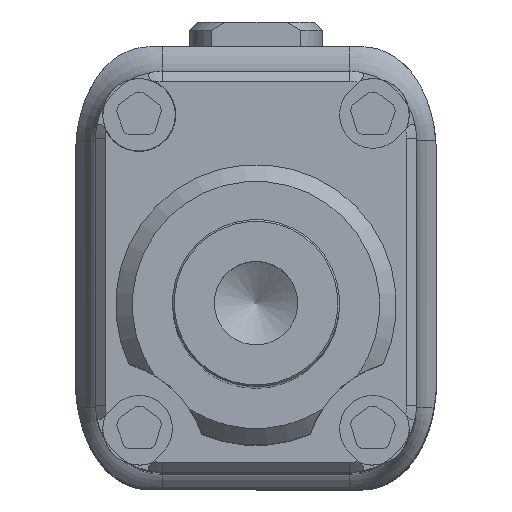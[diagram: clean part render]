
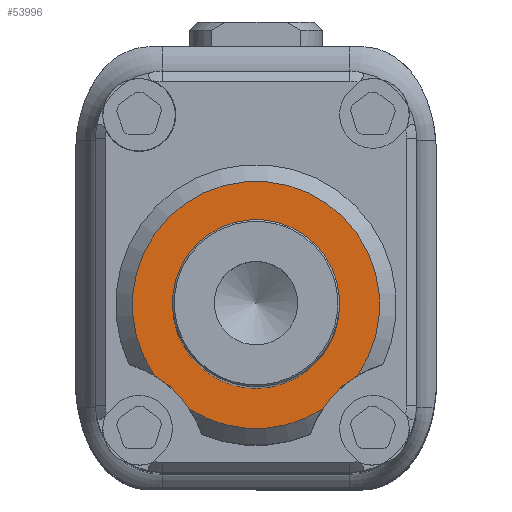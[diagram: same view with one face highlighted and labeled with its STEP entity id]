
A CAD part, top view. The second image highlights one B-rep face of the part: STEP entity #53996.
In plain terms, the highlighted planar face has unit normal (0, 0, 1).
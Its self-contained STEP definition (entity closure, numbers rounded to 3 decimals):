
#2507 = EDGE_CURVE ( 'NONE', #46904, #52491, #33795, .T. ) ;
#2675 = CARTESIAN_POINT ( 'NONE',  ( 0., 0.2, 3.5 ) ) ;
#6387 = CIRCLE ( 'NONE', #46135, 3.2 ) ;
#6552 = CARTESIAN_POINT ( 'NONE',  ( -3.038, -1.912, 3.5 ) ) ;
#6761 = CIRCLE ( 'NONE', #34357, 3.2 ) ;
#8284 = ORIENTED_EDGE ( 'NONE', *, *, #2507, .T. ) ;
#9348 = DIRECTION ( 'NONE',  ( 1., 0., 0. ) ) ;
#9748 = FACE_BOUND ( 'NONE', #37643, .T. ) ;
#11115 = CARTESIAN_POINT ( 'NONE',  ( 2.5, 0.2, 3.5 ) ) ;
#12972 = ORIENTED_EDGE ( 'NONE', *, *, #28618, .T. ) ;
#13907 = FACE_OUTER_BOUND ( 'NONE', #40761, .T. ) ;
#14957 = EDGE_CURVE ( 'NONE', #25230, #46904, #6761, .T. ) ;
#15202 = AXIS2_PLACEMENT_3D ( 'NONE', #23798, #18702, #63068 ) ;
#15803 = CARTESIAN_POINT ( 'NONE',  ( 3.038, -1.912, 3.5 ) ) ;
#18702 = DIRECTION ( 'NONE',  ( 0., 0., 1. ) ) ;
#19535 = DIRECTION ( 'NONE',  ( 0., 0., 1. ) ) ;
#23798 = CARTESIAN_POINT ( 'NONE',  ( 0., 0.2, 3.5 ) ) ;
#24139 = ORIENTED_EDGE ( 'NONE', *, *, #42263, .F. ) ;
#24319 = CARTESIAN_POINT ( 'NONE',  ( 0., 0.2, 3.5 ) ) ;
#25230 = VERTEX_POINT ( 'NONE', #6552 ) ;
#27630 = DIRECTION ( 'NONE',  ( 0., 0., 1. ) ) ;
#28618 = EDGE_CURVE ( 'NONE', #55770, #25230, #41305, .T. ) ;
#31451 = CARTESIAN_POINT ( 'NONE',  ( 0., 0.2, 3.5 ) ) ;
#32358 = CARTESIAN_POINT ( 'NONE',  ( 4.667, -4.667, 3.5 ) ) ;
#33795 = CIRCLE ( 'NONE', #38890, 3.7 ) ;
#34357 = AXIS2_PLACEMENT_3D ( 'NONE', #42127, #61603, #43088 ) ;
#36209 = AXIS2_PLACEMENT_3D ( 'NONE', #2675, #36551, #50896 ) ;
#36520 = DIRECTION ( 'NONE',  ( 1., 0., 0. ) ) ;
#36551 = DIRECTION ( 'NONE',  ( 0., 0., 1. ) ) ;
#37355 = CARTESIAN_POINT ( 'NONE',  ( 1.983, -2.924, 3.5 ) ) ;
#37643 = EDGE_LOOP ( 'NONE', ( #42996 ) ) ;
#38635 = CIRCLE ( 'NONE', #60034, 2.5 ) ;
#38890 = AXIS2_PLACEMENT_3D ( 'NONE', #31451, #27630, #42332 ) ;
#40761 = EDGE_LOOP ( 'NONE', ( #53635, #8284, #24139, #12972 ) ) ;
#41305 = CIRCLE ( 'NONE', #36209, 3.7 ) ;
#42127 = CARTESIAN_POINT ( 'NONE',  ( -4.667, -4.667, 3.5 ) ) ;
#42263 = EDGE_CURVE ( 'NONE', #55770, #52491, #6387, .T. ) ;
#42332 = DIRECTION ( 'NONE',  ( 1., 0., 0. ) ) ;
#42996 = ORIENTED_EDGE ( 'NONE', *, *, #49635, .F. ) ;
#43088 = DIRECTION ( 'NONE',  ( 1., 0., 0. ) ) ;
#44465 = CARTESIAN_POINT ( 'NONE',  ( -1.983, -2.924, 3.5 ) ) ;
#46094 = DIRECTION ( 'NONE',  ( 0., 0., 1. ) ) ;
#46135 = AXIS2_PLACEMENT_3D ( 'NONE', #32358, #46094, #36520 ) ;
#46904 = VERTEX_POINT ( 'NONE', #44465 ) ;
#49635 = EDGE_CURVE ( 'NONE', #55211, #55211, #38635, .T. ) ;
#50896 = DIRECTION ( 'NONE',  ( 1., 0., 0. ) ) ;
#52491 = VERTEX_POINT ( 'NONE', #37355 ) ;
#53635 = ORIENTED_EDGE ( 'NONE', *, *, #14957, .T. ) ;
#53996 = ADVANCED_FACE ( 'NONE', ( #9748, #13907 ), #57370, .T. ) ;
#55211 = VERTEX_POINT ( 'NONE', #11115 ) ;
#55770 = VERTEX_POINT ( 'NONE', #15803 ) ;
#57370 = PLANE ( 'NONE',  #15202 ) ;
#60034 = AXIS2_PLACEMENT_3D ( 'NONE', #24319, #19535, #9348 ) ;
#61603 = DIRECTION ( 'NONE',  ( 0., 0., -1. ) ) ;
#63068 = DIRECTION ( 'NONE',  ( 1., 0., 0. ) ) ;
